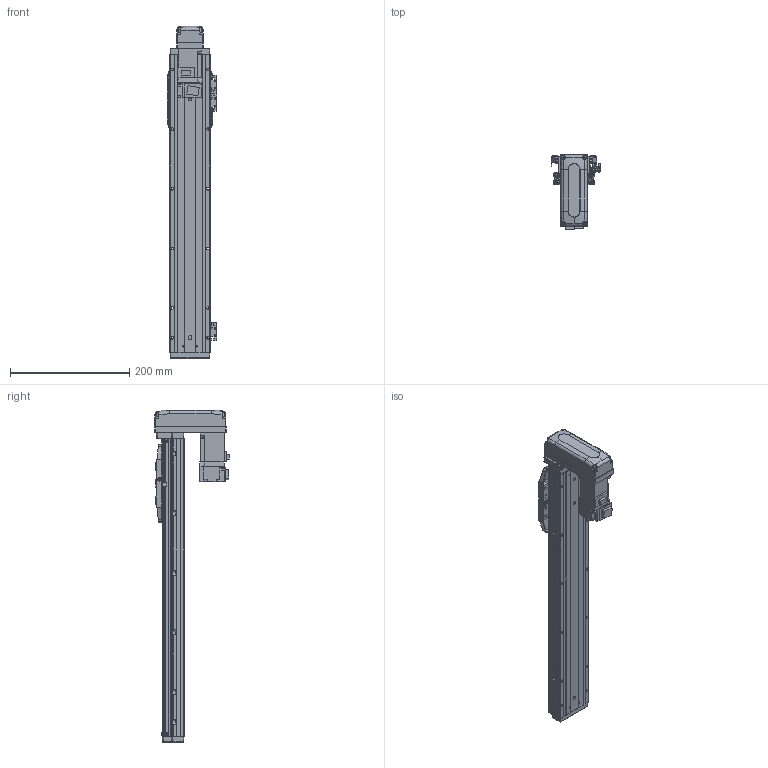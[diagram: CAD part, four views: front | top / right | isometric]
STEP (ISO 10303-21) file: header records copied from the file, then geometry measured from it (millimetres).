
FILE_DESCRIPTION (( 'STEP AP203' ), '1' );
FILE_NAME ('CTHA60-350-BM-M10-C4L.step', '2022-03-19T06:17:27', ( '微软用户' ), ( '微软中国' ), 'SwSTEP 2.0', 'SolidWorks 2020', '' );
FILE_SCHEMA (( 'CONFIG_CONTROL_DESIGN' ));
Length unit declared in the file: millimetre
Products named in the file (18): CTHA60-005; GBT 70.1-M3℅6; CTHA60-033; GB¨uT 70.2-M3¡Á6_M3¡Á6; GBT 70.3-M3℅6; CTHA60-350-BM-M10-C4L; EE_SX911P_R; CTHA60-016; CTHA60-017; HG-KR13（三菱）; CTHA60-021; CTHA60-002; CTHA60-001_500; GBT 70.1-M4×16; CTHA60-031; CTHA60-004; GBT77-2000 M3×3; CTHA60-006-1
Assembly tree (54 placements, depth 2):
  CTHA60-350-BM-M10-C4L
    CTHA60-001_500
    CTHA60-004
    CTHA60-005
    GB¨uT 70.2-M3¡Á6_M3¡Á6  x10
    EE_SX911P_R  x3
    CTHA60-017  x3
    CTHA60-021  x2
    GBT 70.1-M4×16  x10
    GBT77-2000 M3×3  x6
    GBT 70.1-M3℅6  x6
    GBT 70.3-M3℅6  x4
    CTHA60-016  x2
    HG-KR13（三菱）
    CTHA60-002
    CTHA60-031
    CTHA60-006-1
    CTHA60-033
Bounding box: 83.12 x 125.3 x 557 mm (x, y, z)
Volume: 1047410.4 mm3; surface area: 325762.4 mm2
Topology: 56 solids, 56 shells, 2494 faces, 5981 edges, 3685 vertices
Faces by surface type: plane 1437, cylinder 571, cone 338, torus 92, bspline 32, sphere 24
Entity records: 44365 total; most frequent: CARTESIAN_POINT 8586, DIRECTION 6836, ORIENTED_EDGE 6770, EDGE_CURVE 3385, LINE 2400, VECTOR 2400, AXIS2_PLACEMENT_3D 2218, VERTEX_POINT 2144
